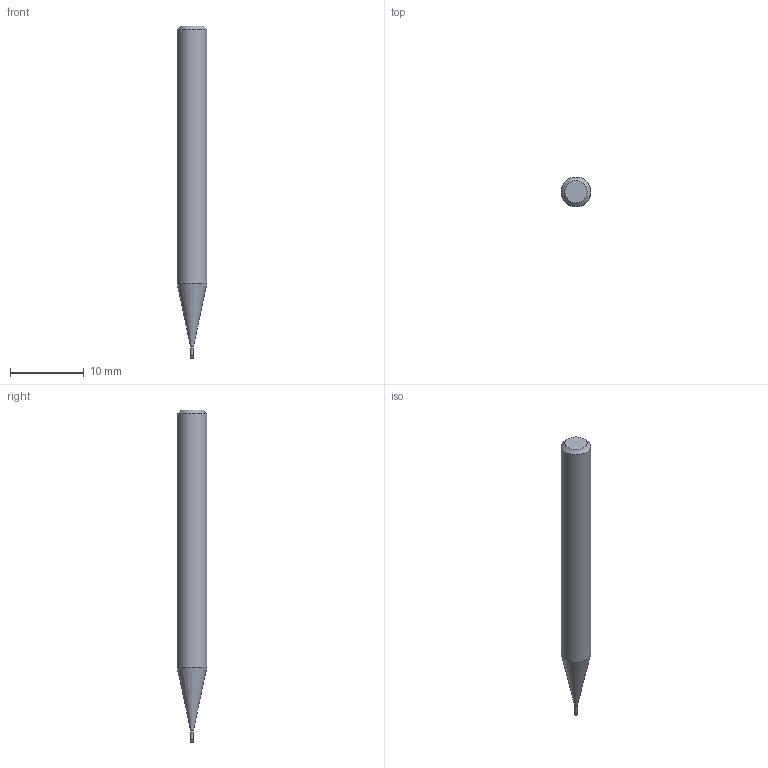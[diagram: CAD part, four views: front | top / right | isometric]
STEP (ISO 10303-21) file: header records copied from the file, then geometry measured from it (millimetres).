
FILE_DESCRIPTION((''),'2;1');
FILE_NAME('C:\Users\nsx150\AppData\Local\Temp\Mastercam 2021\3SYKECWX22\TEMP.step','2021-04-22T09:36:31',(''),(''),'STEP Write','Mastercam 2021 ... CNC Software, Inc.','');
FILE_SCHEMA(('AUTOMOTIVE_DESIGN'));
Length unit declared in the file: millimetre
Products named in the file (1): None
Bounding box: 4 x 4 x 45 mm (x, y, z)
Volume: 477.4 mm3; surface area: 509.9 mm2
Topology: 2 solids, 2 shells, 10 faces, 14 edges, 8 vertices
Faces by surface type: plane 4, cylinder 3, cone 2, torus 1
Full cylindrical faces by diameter (mm): 0.37 x1, 0.4 x1, 4 x1
Entity records: 232 total; most frequent: DIRECTION 40, CARTESIAN_POINT 28, AXIS2_PLACEMENT_3D 20, ORIENTED_EDGE 16, EDGE_LOOP 16, STYLED_ITEM 13, ADVANCED_FACE 10, FACE_BOUND 10
